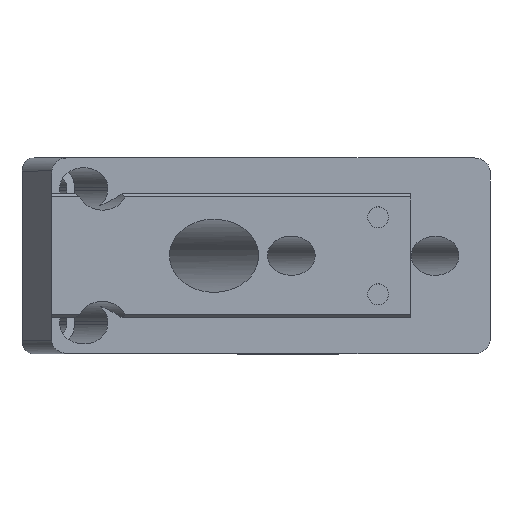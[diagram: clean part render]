
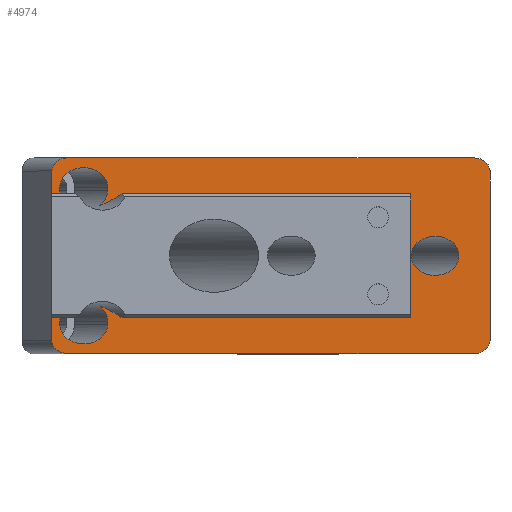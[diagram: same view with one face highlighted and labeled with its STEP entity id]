
A CAD part, top view. The second image highlights one B-rep face of the part: STEP entity #4974.
In plain terms, the highlighted planar face has unit normal (0, 0, 1).
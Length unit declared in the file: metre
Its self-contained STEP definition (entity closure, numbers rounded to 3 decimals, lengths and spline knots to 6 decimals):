
#250=ELLIPSE('',#5292,0.003662,0.003);
#251=ELLIPSE('',#5293,0.002442,0.002);
#252=ELLIPSE('',#5294,0.002442,0.002);
#253=ELLIPSE('',#5295,0.003662,0.003);
#254=ELLIPSE('',#5296,0.003662,0.003);
#255=ELLIPSE('',#5297,0.003662,0.003);
#256=ELLIPSE('',#5298,0.003662,0.003);
#257=ELLIPSE('',#5299,0.003662,0.003);
#258=ELLIPSE('',#5300,0.003662,0.003);
#259=ELLIPSE('',#5301,0.002442,0.002);
#260=ELLIPSE('',#5302,0.002442,0.002);
#467=ORIENTED_EDGE('',*,*,#1989,.T.);
#468=ORIENTED_EDGE('',*,*,#1990,.T.);
#469=ORIENTED_EDGE('',*,*,#1991,.T.);
#470=ORIENTED_EDGE('',*,*,#1992,.T.);
#471=ORIENTED_EDGE('',*,*,#1993,.T.);
#472=ORIENTED_EDGE('',*,*,#1994,.F.);
#473=ORIENTED_EDGE('',*,*,#1995,.F.);
#474=ORIENTED_EDGE('',*,*,#1996,.F.);
#475=ORIENTED_EDGE('',*,*,#1997,.T.);
#476=ORIENTED_EDGE('',*,*,#1998,.F.);
#477=ORIENTED_EDGE('',*,*,#1999,.F.);
#478=ORIENTED_EDGE('',*,*,#2000,.F.);
#479=ORIENTED_EDGE('',*,*,#2001,.F.);
#480=ORIENTED_EDGE('',*,*,#2002,.F.);
#481=ORIENTED_EDGE('',*,*,#2003,.T.);
#482=ORIENTED_EDGE('',*,*,#2004,.F.);
#483=ORIENTED_EDGE('',*,*,#2005,.T.);
#484=ORIENTED_EDGE('',*,*,#2006,.F.);
#485=ORIENTED_EDGE('',*,*,#2007,.F.);
#486=ORIENTED_EDGE('',*,*,#2008,.F.);
#487=ORIENTED_EDGE('',*,*,#2009,.T.);
#488=ORIENTED_EDGE('',*,*,#2010,.F.);
#489=ORIENTED_EDGE('',*,*,#2011,.T.);
#490=ORIENTED_EDGE('',*,*,#2012,.F.);
#491=ORIENTED_EDGE('',*,*,#2013,.T.);
#1989=EDGE_CURVE('',#2750,#2750,#250,.T.);
#1990=EDGE_CURVE('',#2751,#2752,#3237,.T.);
#1991=EDGE_CURVE('',#2752,#2753,#251,.F.);
#1992=EDGE_CURVE('',#2753,#2754,#3238,.T.);
#1993=EDGE_CURVE('',#2754,#2755,#252,.F.);
#1994=EDGE_CURVE('',#2756,#2755,#3239,.T.);
#1995=EDGE_CURVE('',#2757,#2756,#3240,.T.);
#1996=EDGE_CURVE('',#2758,#2757,#253,.F.);
#1997=EDGE_CURVE('',#2758,#2759,#3241,.T.);
#1998=EDGE_CURVE('',#2760,#2759,#254,.F.);
#1999=EDGE_CURVE('',#2761,#2760,#3242,.T.);
#2000=EDGE_CURVE('',#2762,#2761,#255,.F.);
#2001=EDGE_CURVE('',#2763,#2762,#3243,.T.);
#2002=EDGE_CURVE('',#2764,#2763,#3244,.T.);
#2003=EDGE_CURVE('',#2764,#2765,#3245,.T.);
#2004=EDGE_CURVE('',#2766,#2765,#256,.F.);
#2005=EDGE_CURVE('',#2766,#2767,#3246,.T.);
#2006=EDGE_CURVE('',#2768,#2767,#257,.F.);
#2007=EDGE_CURVE('',#2769,#2768,#3247,.T.);
#2008=EDGE_CURVE('',#2770,#2769,#258,.F.);
#2009=EDGE_CURVE('',#2770,#2771,#3248,.T.);
#2010=EDGE_CURVE('',#2772,#2771,#3249,.T.);
#2011=EDGE_CURVE('',#2772,#2773,#259,.F.);
#2012=EDGE_CURVE('',#2774,#2773,#3250,.T.);
#2013=EDGE_CURVE('',#2774,#2751,#260,.F.);
#2750=VERTEX_POINT('',#6817);
#2751=VERTEX_POINT('',#6819);
#2752=VERTEX_POINT('',#6820);
#2753=VERTEX_POINT('',#6822);
#2754=VERTEX_POINT('',#6824);
#2755=VERTEX_POINT('',#6826);
#2756=VERTEX_POINT('',#6828);
#2757=VERTEX_POINT('',#6830);
#2758=VERTEX_POINT('',#6832);
#2759=VERTEX_POINT('',#6834);
#2760=VERTEX_POINT('',#6836);
#2761=VERTEX_POINT('',#6838);
#2762=VERTEX_POINT('',#6840);
#2763=VERTEX_POINT('',#6842);
#2764=VERTEX_POINT('',#6844);
#2765=VERTEX_POINT('',#6846);
#2766=VERTEX_POINT('',#6848);
#2767=VERTEX_POINT('',#6850);
#2768=VERTEX_POINT('',#6852);
#2769=VERTEX_POINT('',#6854);
#2770=VERTEX_POINT('',#6856);
#2771=VERTEX_POINT('',#6858);
#2772=VERTEX_POINT('',#6860);
#2773=VERTEX_POINT('',#6862);
#2774=VERTEX_POINT('',#6864);
#3237=LINE('',#6818,#3726);
#3238=LINE('',#6823,#3727);
#3239=LINE('',#6827,#3728);
#3240=LINE('',#6829,#3729);
#3241=LINE('',#6833,#3730);
#3242=LINE('',#6837,#3731);
#3243=LINE('',#6841,#3732);
#3244=LINE('',#6843,#3733);
#3245=LINE('',#6845,#3734);
#3246=LINE('',#6849,#3735);
#3247=LINE('',#6853,#3736);
#3248=LINE('',#6857,#3737);
#3249=LINE('',#6859,#3738);
#3250=LINE('',#6863,#3739);
#3726=VECTOR('',#5671,1.);
#3727=VECTOR('',#5674,1.);
#3728=VECTOR('',#5677,1.);
#3729=VECTOR('',#5678,1.);
#3730=VECTOR('',#5681,1.);
#3731=VECTOR('',#5684,1.);
#3732=VECTOR('',#5687,1.);
#3733=VECTOR('',#5688,1.);
#3734=VECTOR('',#5689,1.);
#3735=VECTOR('',#5692,1.);
#3736=VECTOR('',#5695,1.);
#3737=VECTOR('',#5698,1.);
#3738=VECTOR('',#5699,1.);
#3739=VECTOR('',#5702,1.);
#4201=EDGE_LOOP('',(#467));
#4202=EDGE_LOOP('',(#468,#469,#470,#471,#472,#473,#474,#475,#476,#477,#478,
#479,#480,#481,#482,#483,#484,#485,#486,#487,#488,#489,#490,#491));
#4518=FACE_BOUND('',#4201,.T.);
#4519=FACE_BOUND('',#4202,.T.);
#4823=PLANE('',#5291);
#4974=ADVANCED_FACE('',(#4518,#4519),#4823,.F.);
#5291=AXIS2_PLACEMENT_3D('',#6815,#5667,#5668);
#5292=AXIS2_PLACEMENT_3D('',#6816,#5669,#5670);
#5293=AXIS2_PLACEMENT_3D('',#6821,#5672,#5673);
#5294=AXIS2_PLACEMENT_3D('',#6825,#5675,#5676);
#5295=AXIS2_PLACEMENT_3D('',#6831,#5679,#5680);
#5296=AXIS2_PLACEMENT_3D('',#6835,#5682,#5683);
#5297=AXIS2_PLACEMENT_3D('',#6839,#5685,#5686);
#5298=AXIS2_PLACEMENT_3D('',#6847,#5690,#5691);
#5299=AXIS2_PLACEMENT_3D('',#6851,#5693,#5694);
#5300=AXIS2_PLACEMENT_3D('',#6855,#5696,#5697);
#5301=AXIS2_PLACEMENT_3D('',#6861,#5700,#5701);
#5302=AXIS2_PLACEMENT_3D('',#6865,#5703,#5704);
#5667=DIRECTION('',(0.,0.,-1.));
#5668=DIRECTION('',(-1.,0.,0.));
#5669=DIRECTION('',(0.,0.,-1.));
#5670=DIRECTION('',(-1.,0.,0.));
#5671=DIRECTION('',(0.,1.,0.));
#5672=DIRECTION('',(0.,0.,-1.));
#5673=DIRECTION('',(1.,0.,0.));
#5674=DIRECTION('',(-1.,0.,0.));
#5675=DIRECTION('',(0.,0.,-1.));
#5676=DIRECTION('',(-1.,0.,0.));
#5677=DIRECTION('',(0.,1.,0.));
#5678=DIRECTION('',(-1.,0.,0.));
#5679=DIRECTION('',(0.,0.,-1.));
#5680=DIRECTION('',(-1.,0.,0.));
#5681=DIRECTION('',(0.,1.,0.));
#5682=DIRECTION('',(0.,0.,-1.));
#5683=DIRECTION('',(-1.,0.,0.));
#5684=DIRECTION('',(0.,1.,0.));
#5685=DIRECTION('',(0.,0.,-1.));
#5686=DIRECTION('',(-1.,0.,0.));
#5687=DIRECTION('',(-1.,0.,0.));
#5688=DIRECTION('',(0.,1.,0.));
#5689=DIRECTION('',(-1.,0.,0.));
#5690=DIRECTION('',(0.,0.,-1.));
#5691=DIRECTION('',(-1.,0.,0.));
#5692=DIRECTION('',(0.,-1.,0.));
#5693=DIRECTION('',(0.,0.,-1.));
#5694=DIRECTION('',(-1.,0.,0.));
#5695=DIRECTION('',(0.,-1.,0.));
#5696=DIRECTION('',(0.,0.,-1.));
#5697=DIRECTION('',(-1.,0.,0.));
#5698=DIRECTION('',(-1.,0.,0.));
#5699=DIRECTION('',(0.,1.,0.));
#5700=DIRECTION('',(0.,0.,-1.));
#5701=DIRECTION('',(1.,0.,0.));
#5702=DIRECTION('',(-1.,0.,0.));
#5703=DIRECTION('',(0.,0.,-1.));
#5704=DIRECTION('',(-1.,0.,0.));
#6815=CARTESIAN_POINT('',(0.033571,-0.015,0.));
#6816=CARTESIAN_POINT('',(0.058719,0.,0.));
#6817=CARTESIAN_POINT('',(0.055057,0.,0.));
#6818=CARTESIAN_POINT('',(0.067143,-0.015,0.));
#6819=CARTESIAN_POINT('',(0.067143,-0.013,0.));
#6820=CARTESIAN_POINT('',(0.067143,0.013,0.));
#6821=CARTESIAN_POINT('',(0.064701,0.013,0.));
#6822=CARTESIAN_POINT('',(0.064701,0.015,0.));
#6823=CARTESIAN_POINT('',(0.033571,0.015,0.));
#6824=CARTESIAN_POINT('',(0.002442,0.015,0.));
#6825=CARTESIAN_POINT('',(0.002442,0.013,0.));
#6826=CARTESIAN_POINT('',(0.,0.013,0.));
#6827=CARTESIAN_POINT('',(0.,-0.015,0.));
#6828=CARTESIAN_POINT('',(0.,0.007695,0.));
#6829=CARTESIAN_POINT('',(0.055,0.007695,0.));
#6830=CARTESIAN_POINT('',(0.002539,0.007695,0.));
#6831=CARTESIAN_POINT('',(0.004883,0.01,0.));
#6832=CARTESIAN_POINT('',(0.001221,0.01,0.));
#6833=CARTESIAN_POINT('',(0.001221,-0.015,0.));
#6834=CARTESIAN_POINT('',(0.001221,0.0105,0.));
#6835=CARTESIAN_POINT('',(0.004883,0.0105,0.));
#6836=CARTESIAN_POINT('',(0.008545,0.0105,0.));
#6837=CARTESIAN_POINT('',(0.008545,-0.015,0.));
#6838=CARTESIAN_POINT('',(0.008545,0.01,0.));
#6839=CARTESIAN_POINT('',(0.004883,0.01,0.));
#6840=CARTESIAN_POINT('',(0.007227,0.007695,0.));
#6841=CARTESIAN_POINT('',(0.055,0.007695,0.));
#6842=CARTESIAN_POINT('',(0.055,0.007695,0.));
#6843=CARTESIAN_POINT('',(0.055,0.,0.));
#6844=CARTESIAN_POINT('',(0.055,-0.007695,0.));
#6845=CARTESIAN_POINT('',(0.055,-0.007695,0.));
#6846=CARTESIAN_POINT('',(0.007227,-0.007695,0.));
#6847=CARTESIAN_POINT('',(0.004883,-0.01,0.));
#6848=CARTESIAN_POINT('',(0.008545,-0.01,0.));
#6849=CARTESIAN_POINT('',(0.008545,-0.015,0.));
#6850=CARTESIAN_POINT('',(0.008545,-0.0105,0.));
#6851=CARTESIAN_POINT('',(0.004883,-0.0105,0.));
#6852=CARTESIAN_POINT('',(0.001221,-0.0105,0.));
#6853=CARTESIAN_POINT('',(0.001221,-0.015,0.));
#6854=CARTESIAN_POINT('',(0.001221,-0.01,0.));
#6855=CARTESIAN_POINT('',(0.004883,-0.01,0.));
#6856=CARTESIAN_POINT('',(0.002539,-0.007695,0.));
#6857=CARTESIAN_POINT('',(0.055,-0.007695,0.));
#6858=CARTESIAN_POINT('',(0.,-0.007695,0.));
#6859=CARTESIAN_POINT('',(0.,-0.015,0.));
#6860=CARTESIAN_POINT('',(0.,-0.013,0.));
#6861=CARTESIAN_POINT('',(0.002442,-0.013,0.));
#6862=CARTESIAN_POINT('',(0.002442,-0.015,0.));
#6863=CARTESIAN_POINT('',(0.033571,-0.015,0.));
#6864=CARTESIAN_POINT('',(0.064701,-0.015,0.));
#6865=CARTESIAN_POINT('',(0.064701,-0.013,0.));
